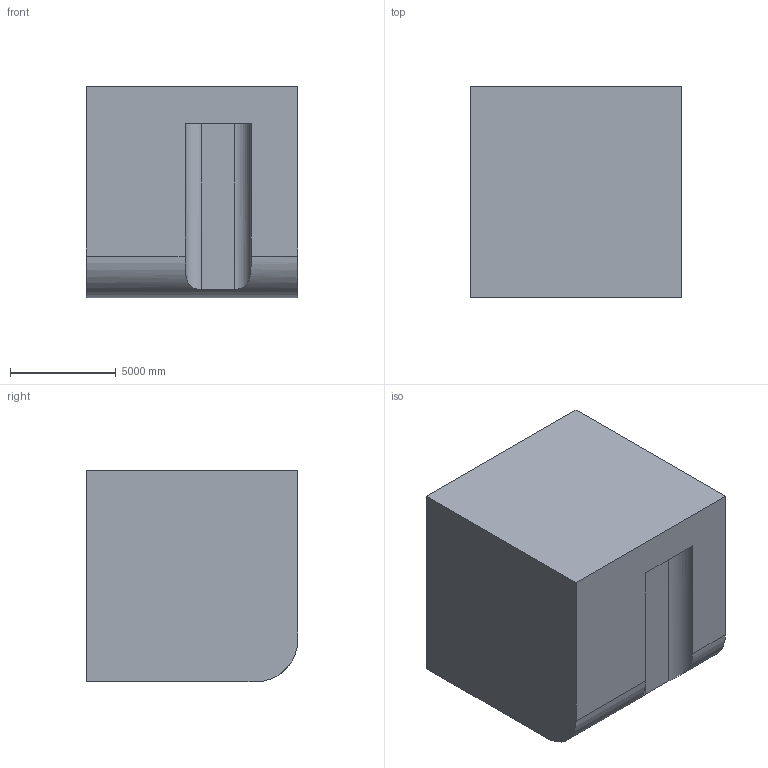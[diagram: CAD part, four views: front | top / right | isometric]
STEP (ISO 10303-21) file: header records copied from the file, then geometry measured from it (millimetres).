
FILE_DESCRIPTION (( 'STEP AP203' ), '1' );
FILE_NAME ('147.STEP', '2022-07-28T13:44:12', ( 'user' ), ( '' ), 'SwSTEP 2.0', 'SolidWorks 2021', '' );
FILE_SCHEMA (( 'CONFIG_CONTROL_DESIGN' ));
Length unit declared in the file: centimetre
Products named in the file (1): 147
Bounding box: 10000 x 10000 x 10000 mm (x, y, z)
Volume: 975587911693.1 mm3; surface area: 597891573.5 mm2
Topology: 1 solids, 1 shells, 11 faces, 27 edges, 18 vertices
Faces by surface type: plane 8, cylinder 3
Entity records: 577 total; most frequent: CARTESIAN_POINT 236, ORIENTED_EDGE 54, DIRECTION 53, EDGE_CURVE 27, LINE 21, VECTOR 21, VERTEX_POINT 18, AXIS2_PLACEMENT_3D 16
